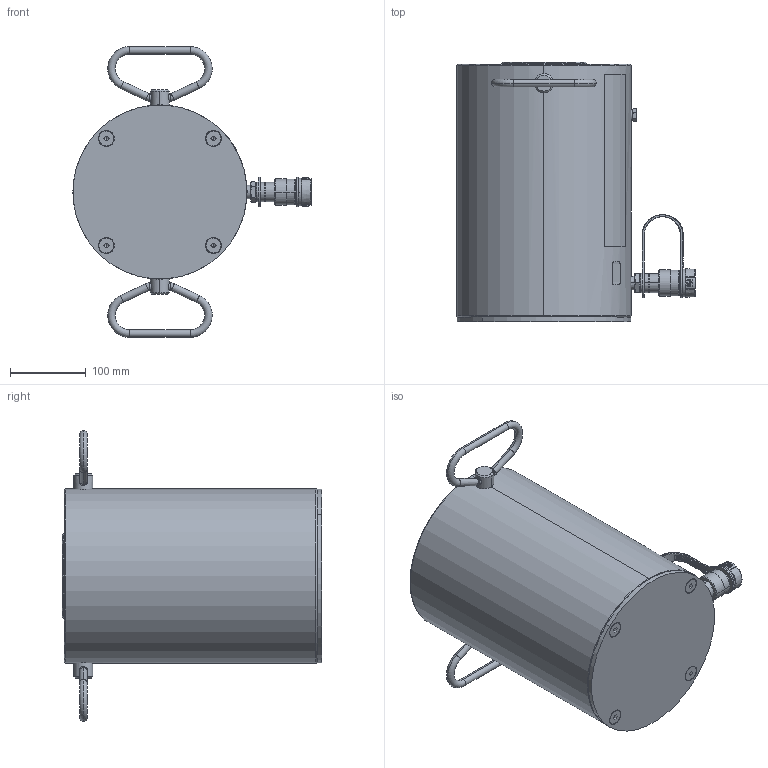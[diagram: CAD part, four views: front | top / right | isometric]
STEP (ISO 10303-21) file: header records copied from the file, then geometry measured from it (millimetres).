
FILE_DESCRIPTION((''),'2;1');
FILE_NAME('RAC1506_SW0001','2021-11-25T15:30:18',('jorge.gonzalez'),(''),'CREO PARAMETRIC BY PTC INC, 2020454','CREO PARAMETRIC BY PTC INC, 2020454','');
FILE_SCHEMA(('CONFIG_CONTROL_DESIGN'));
Length unit declared in the file: millimetre
Products named in the file (1): RAC1506_SW0001
Bounding box: 314.68 x 342.9 x 384 mm (x, y, z)
Volume: 12971461.8 mm3; surface area: 743969.3 mm2
Topology: 3 solids, 4 shells, 944 faces, 2298 edges, 1433 vertices
Faces by surface type: plane 416, cylinder 183, cone 150, torus 109, extrusion 68, bspline 18
Entity records: 37549 total; most frequent: CARTESIAN_POINT 15626, ORIENTED_EDGE 4568, DIRECTION 4442, EDGE_CURVE 2284, AXIS2_PLACEMENT_3D 1622, VERTEX_POINT 1433, VECTOR 1198, LINE 1130
